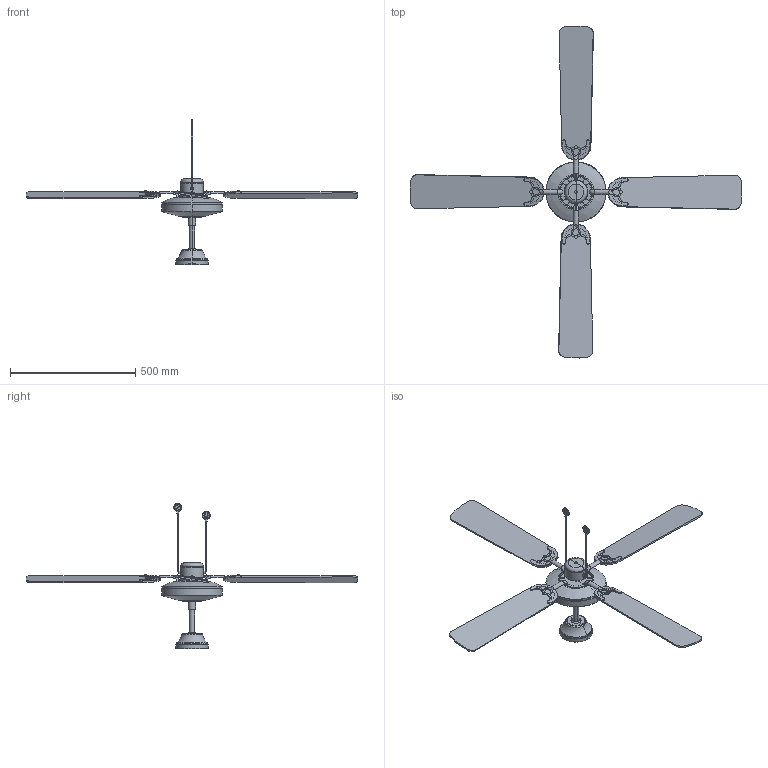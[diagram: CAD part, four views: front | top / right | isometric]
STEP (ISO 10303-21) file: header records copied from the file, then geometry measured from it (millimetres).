
FILE_DESCRIPTION(/* description */ (''),/* implementation_level */ '2;1');
FILE_NAME(/* name */ 'C:\Users\FrancoSartori\Documents\FARO\01_En Proceso\00_ALOHA YAKARTA\03_Publicación\33711.stp',/* time_stamp */ '2021-06-08T17:37:32+02:00',/* author */ ('FrancoSartori'),/* organization */ (''),/* preprocessor_version */ 'ST-DEVELOPER v18.1',/* originating_system */ 'AutoCAD Mechanical',/* authorisation */ '');
FILE_SCHEMA (('AUTOMOTIVE_DESIGN { 1 0 10303 214 3 1 1 }'));
Products named in the file (2): Product; 33711_ 33712_ 33713 _ - FAN-481163-Export
Assembly tree (1 placements, depth 2):
  Product
    33711_ 33712_ 33713 _ - FAN-481163-Export
Bounding box: 1323.47 x 1323.47 x 578.36 mm (x, y, z)
Volume: 5192596.3 mm3; surface area: 947279.1 mm2
Topology: 20 solids, 132 shells, 768 faces, 2008 edges, 1304 vertices
Faces by surface type: plane 252, cylinder 242, sphere 226, torus 34, cone 10, bspline 4
Entity records: 81203 total; most frequent: CARTESIAN_POINT 63562, ORIENTED_EDGE 3560, DIRECTION 3199, EDGE_CURVE 2000, VERTEX_POINT 1304, AXIS2_PLACEMENT_3D 1247, EDGE_LOOP 824, B_SPLINE_CURVE_WITH_KNOTS 815
